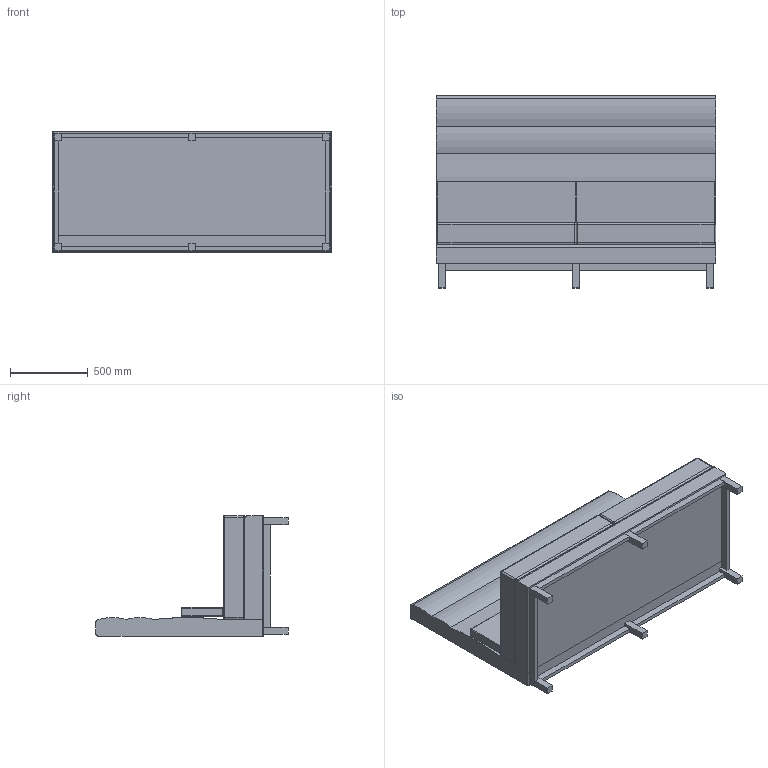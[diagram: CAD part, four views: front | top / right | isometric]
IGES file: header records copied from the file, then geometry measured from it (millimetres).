
Start section: SolidWorks IGES file using analytic representation for surfaces
Global section: file name: P:\3D CAD BLOCKS\ARTHUR CITYSCAPE\HB Bumped Compact Armless\IGS\ART-HB-BUMP-COMP-ART-CITY-ARMLESS.IGS; native system: SolidWorks 2012; preprocessor: SolidWorks 2012; author: tom; date: 160523.090533; units: millimetre
Bounding box: 1800 x 1240 x 780 mm (x, y, z)
Surface area: 12802587.2 mm2 (no closed solid volume)
Topology: 0 solids, 0 shells, 199 faces, 964 edges, 952 vertices
Faces by surface type: bspline 108, revolution 91
